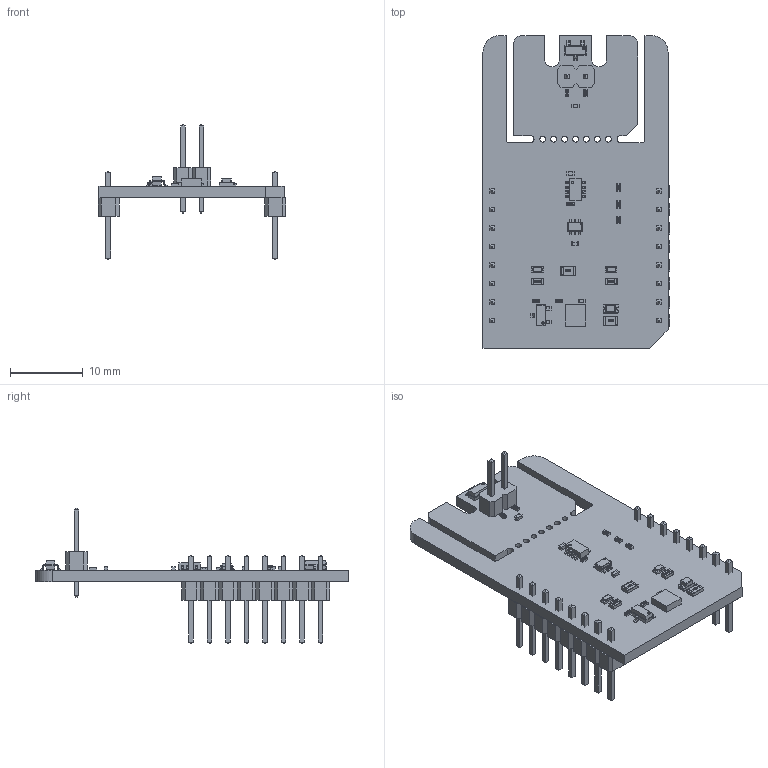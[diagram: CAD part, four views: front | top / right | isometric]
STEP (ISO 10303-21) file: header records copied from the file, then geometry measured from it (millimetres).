
FILE_DESCRIPTION(('Open CASCADE Model'),'2;1');
FILE_NAME('Open CASCADE Shape Model','2026-05-14T11:36:38',('Author'),( 'Open CASCADE'),'Open CASCADE STEP processor 6.8','Open CASCADE 6.8' ,'Unknown');
FILE_SCHEMA(('AUTOMOTIVE_DESIGN { 1 0 10303 214 1 1 1 1 }'));
Length unit declared in the file: millimetre
Products named in the file (49): PCB; Board; R1; User_Library-R_0805; LD1; led_0805_green; R2; User_Library-R_0402; C1; User_Library-SMD_CAPACITOR0402; R4; Q1; SOT23-3; U1; 1230146664; Extruded; MBD1; Header_1x8; Free-Models; 1240637040; User_Library-PinHeaderX5-1_PinHeaderX5_Body_1; User_Library-PinHeaderX5-1_PinHeaderX5_Pins_1; JP1; C2; C3; C4; J1; User_Library-Pin_Header_Strip_1x2; LD2; Led_0603_RED; LD3; Q2; R3; R5; R6; R7; R8; R9; R10; User_Library-R_0603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
Assembly tree (70 placements, depth 7):
  PCB
    Board
    R1
      User_Library-R_0805
    LD1
      led_0805_green
    R2
      User_Library-R_0402
    C1
      User_Library-SMD_CAPACITOR0402
    R4
      User_Library-R_0402
    Q1
      SOT23-3
    U1
      1230146664
        Extruded
    MBD1
      Header_1x8  x2
        PCB
          Free-Models
            1240637040  x2
              User_Library-PinHeaderX5-1_PinHeaderX5_Body_1
              User_Library-PinHeaderX5-1_PinHeaderX5_Pins_1
    JP1
      User_Library-R_0805
    C2
      User_Library-SMD_CAPACITOR0402
    C3
      User_Library-SMD_CAPACITOR0402
    C4
      User_Library-SMD_CAPACITOR0402
    J1
      User_Library-Pin_Header_Strip_1x2
    LD2
      Led_0603_RED
    LD3
      Led_0603_RED
    Q2
      SOT23-3
    R3
      User_Library-R_0402
    R5
      User_Library-R_0402
    R6
      User_Library-R_0402
    R7
      User_Library-R_0402
    R8
      User_Library-R_0402
    R9
      User_Library-R_0402
    R10
      User_Library-R_0603
    R11
      User_Library-R_0603
    U2
      TSOT-23-8
        User_Library-TSOT-23-8_Part_TSOT-23-8_____________
        User_Library-TSOT-23-8_Assy_FUSS_tsot238_____________  x2
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Bounding box: 25.78 x 42.93 x 18.62 mm (x, y, z)
Volume: 2176.9 mm3; surface area: 4078.4 mm2
Topology: 82 solids, 82 shells, 2401 faces, 6060 edges, 3876 vertices
Faces by surface type: plane 1721, bspline 397, cylinder 235, sphere 48
Full cylindrical faces by diameter (mm): 0.8 x7
Entity records: 37345 total; most frequent: CARTESIAN_POINT 12193, ORIENTED_EDGE 4288, DIRECTION 3672, EDGE_CURVE 2144, LINE 1646, VECTOR 1646, VERTEX_POINT 1374, AXIS2_PLACEMENT_3D 1013
